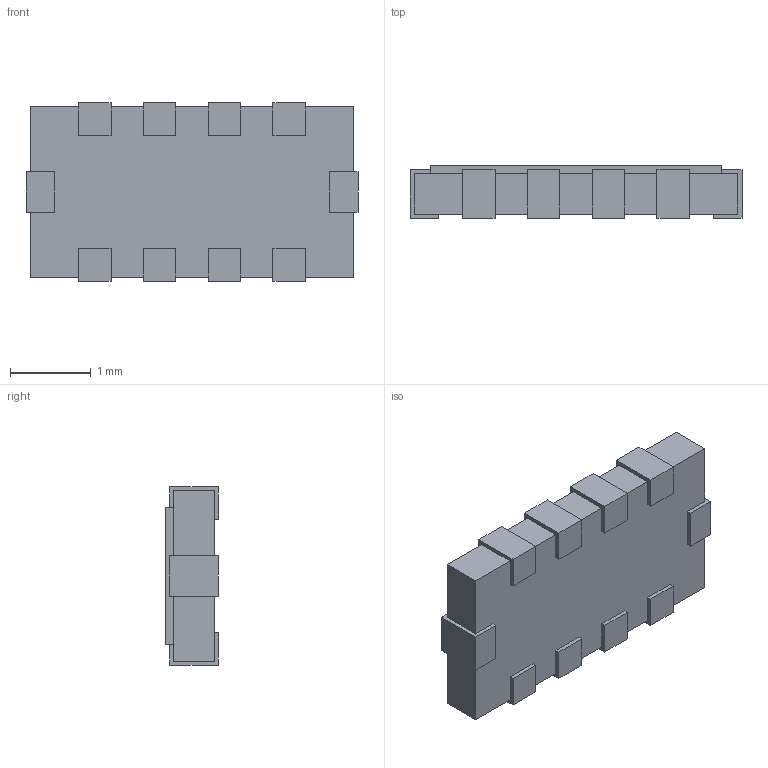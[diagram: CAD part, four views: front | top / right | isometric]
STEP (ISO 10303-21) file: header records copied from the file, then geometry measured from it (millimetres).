
FILE_DESCRIPTION (( 'STEP AP214' ), '1' );
FILE_NAME ( 'RESCAV80P400X210X65-10.STEP', '2014-04-11T12:31:18', ( '' ), ( '' ), 'FPX Expert 2013', 'PCB Libraries', '' );
FILE_SCHEMA (( 'AUTOMOTIVE_DESIGN' ));
Length unit declared in the file: millimetre
Products named in the file (1): RESCAV80P400X210X65-10
Bounding box: 4.1 x 0.65 x 2.2 mm (x, y, z)
Volume: 5.1 mm3; surface area: 47.3 mm2
Topology: 12 solids, 12 shells, 112 faces, 264 edges, 176 vertices
Faces by surface type: plane 112
Entity records: 3597 total; most frequent: CARTESIAN_POINT 553, ORIENTED_EDGE 528, DIRECTION 490, VECTOR 264, LINE 264, EDGE_CURVE 264, VERTEX_POINT 176, STYLED_ITEM 125
